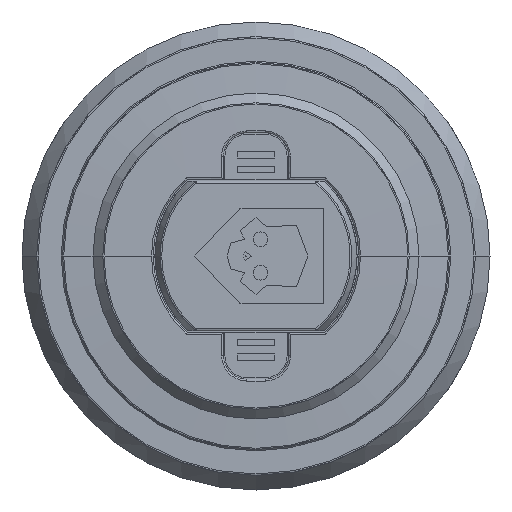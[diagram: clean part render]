
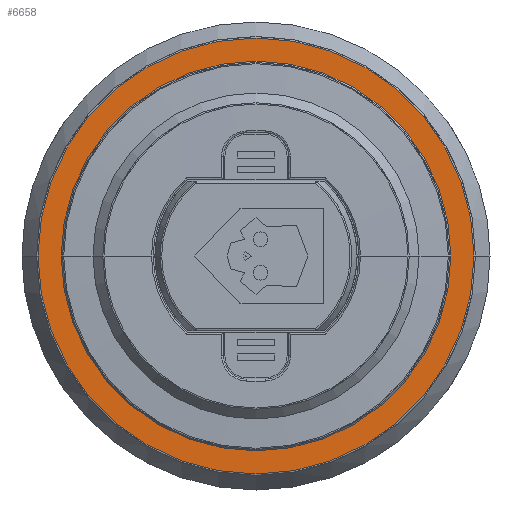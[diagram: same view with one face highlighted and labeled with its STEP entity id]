
A CAD part, front view. The second image highlights one B-rep face of the part: STEP entity #6658.
In plain terms, the highlighted free-form (B-spline) face has degree [1, 1] with [2, 2] control points.
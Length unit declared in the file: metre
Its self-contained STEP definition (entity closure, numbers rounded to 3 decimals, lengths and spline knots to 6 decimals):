
#1108=B_SPLINE_SURFACE_WITH_KNOTS('',1,1,((#9973,#9974),(#9975,#9976)),
 .PLANE_SURF.,.F.,.F.,.F.,(2,2),(2,2),(0.042732,0.954562),
(0.043879,0.958058),.PIECEWISE_BEZIER_KNOTS.);
#1972=ORIENTED_EDGE('',*,*,#3643,.T.);
#1973=ORIENTED_EDGE('',*,*,#3950,.T.);
#1974=ORIENTED_EDGE('',*,*,#3948,.T.);
#1975=ORIENTED_EDGE('',*,*,#3666,.T.);
#3643=EDGE_CURVE('',#4670,#4669,#5318,.F.);
#3666=EDGE_CURVE('',#4691,#4692,#5330,.T.);
#3948=EDGE_CURVE('',#4692,#4691,#5423,.T.);
#3950=EDGE_CURVE('',#4669,#4670,#5425,.F.);
#4669=VERTEX_POINT('',#8932);
#4670=VERTEX_POINT('',#8934);
#4691=VERTEX_POINT('',#9039);
#4692=VERTEX_POINT('',#9040);
#5318=CIRCLE('',#7282,0.0955);
#5330=CIRCLE('',#7294,0.085358);
#5423=CIRCLE('',#7394,0.085358);
#5425=CIRCLE('',#7396,0.0955);
#5645=EDGE_LOOP('',(#1972,#1973));
#5646=EDGE_LOOP('',(#1974,#1975));
#6073=FACE_BOUND('',#5645,.T.);
#6074=FACE_BOUND('',#5646,.T.);
#6658=ADVANCED_FACE('',(#6073,#6074),#1108,.F.);
#7282=AXIS2_PLACEMENT_3D('',#8933,#7589,#7590);
#7294=AXIS2_PLACEMENT_3D('',#9038,#7613,#7614);
#7394=AXIS2_PLACEMENT_3D('',#9971,#7945,#7946);
#7396=AXIS2_PLACEMENT_3D('',#9977,#7949,#7950);
#7589=DIRECTION('',(0.,1.,0.));
#7590=DIRECTION('',(1.,0.,0.));
#7613=DIRECTION('',(0.,1.,0.));
#7614=DIRECTION('',(1.,0.,0.));
#7945=DIRECTION('',(0.,1.,0.));
#7946=DIRECTION('',(1.,0.,0.));
#7949=DIRECTION('',(0.,1.,0.));
#7950=DIRECTION('',(1.,0.,0.));
#8932=CARTESIAN_POINT('',(-0.0955,-0.025525,0.));
#8933=CARTESIAN_POINT('',(0.,-0.025525,0.));
#8934=CARTESIAN_POINT('',(0.0955,-0.025525,0.));
#9038=CARTESIAN_POINT('',(0.,-0.025525,0.));
#9039=CARTESIAN_POINT('',(-0.085358,-0.025525,0.));
#9040=CARTESIAN_POINT('',(0.085358,-0.025525,0.));
#9971=CARTESIAN_POINT('',(0.,-0.025525,0.));
#9973=CARTESIAN_POINT('',(-0.097225,-0.025525,0.096981));
#9974=CARTESIAN_POINT('',(-0.097225,-0.025525,-0.097393));
#9975=CARTESIAN_POINT('',(0.096649,-0.025525,0.096981));
#9976=CARTESIAN_POINT('',(0.096649,-0.025525,-0.097393));
#9977=CARTESIAN_POINT('',(0.,-0.025525,0.));
